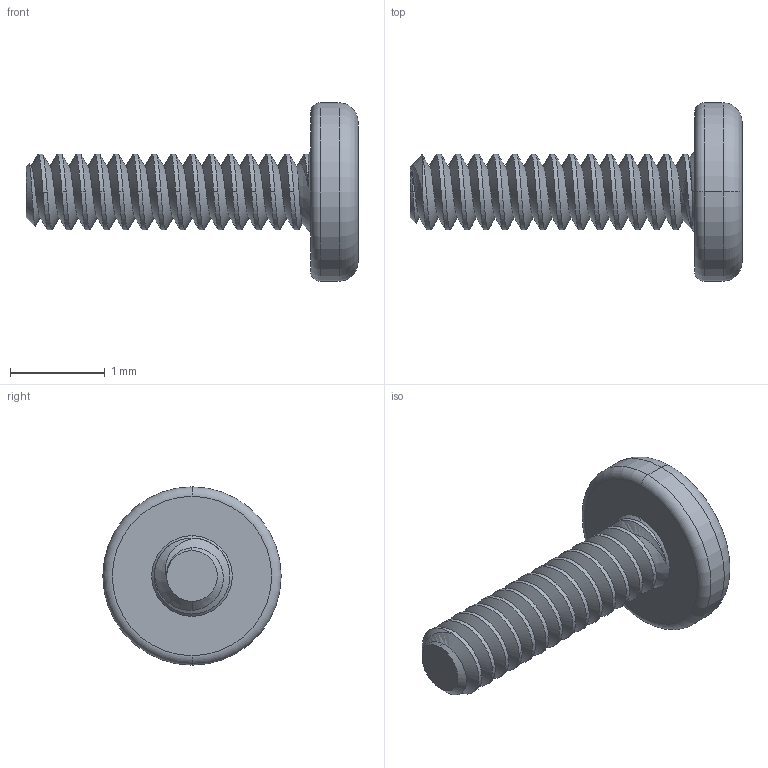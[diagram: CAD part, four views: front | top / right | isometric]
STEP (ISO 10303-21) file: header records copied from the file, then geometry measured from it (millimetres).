
FILE_DESCRIPTION (( 'STEP AP203' ), '1' );
FILE_NAME ('M08-30-M-SS-P-USMICROSCREW.STEP', '2014-04-21T20:54:17', ( 'Chromium' ), ( 'Microsoft' ), 'SwSTEP 2.0', 'SolidWorks 2013', '' );
FILE_SCHEMA (( 'CONFIG_CONTROL_DESIGN' ));
Length unit declared in the file: millimetre
Products named in the file (1): M08-30-M-SS-P-USMICROSCREW
Bounding box: 3.5 x 1.88 x 1.88 mm (x, y, z)
Volume: 2.4 mm3; surface area: 19.2 mm2
Topology: 1 solids, 1 shells, 107 faces, 295 edges, 188 vertices
Faces by surface type: cylinder 74, plane 16, cone 7, bspline 6, torus 4
Entity records: 5453 total; most frequent: CARTESIAN_POINT 3162, ORIENTED_EDGE 582, DIRECTION 350, EDGE_CURVE 291, VERTEX_POINT 188, AXIS2_PLACEMENT_3D 124, EDGE_LOOP 109, FACE_OUTER_BOUND 107
